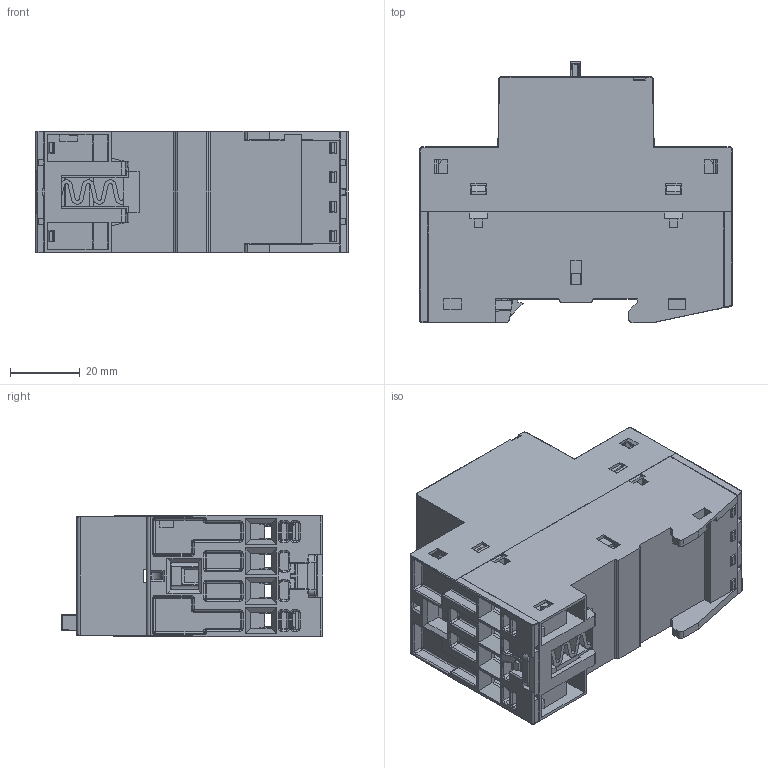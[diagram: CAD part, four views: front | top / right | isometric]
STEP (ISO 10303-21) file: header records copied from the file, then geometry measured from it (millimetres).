
FILE_DESCRIPTION (( 'STEP AP214' ), '1' );
FILE_NAME ('RSI_25_M.step', '2011-08-12T08:52:59', ( 'Radek Veselý' ), ( 'Siemens and Partners' ), 'SwSTEP 2.0', 'SolidWorks 2006303', '' );
FILE_SCHEMA (( 'AUTOMOTIVE_DESIGN' ));
Length unit declared in the file: millimetre
Products named in the file (1): RSI_25_M
Bounding box: 90 x 75.15 x 35 mm (x, y, z)
Volume: 43186.2 mm3; surface area: 72354.8 mm2
Topology: 16 solids, 17 shells, 3288 faces, 9053 edges, 5767 vertices
Faces by surface type: plane 2169, cylinder 404, torus 292, cone 229, bspline 184, sphere 10
Entity records: 147659 total; most frequent: CARTESIAN_POINT 29287, ORIENTED_EDGE 18046, DIRECTION 15675, EDGE_CURVE 9023, VECTOR 6561, LINE 6561, VERTEX_POINT 5767, AXIS2_PLACEMENT_3D 4557
